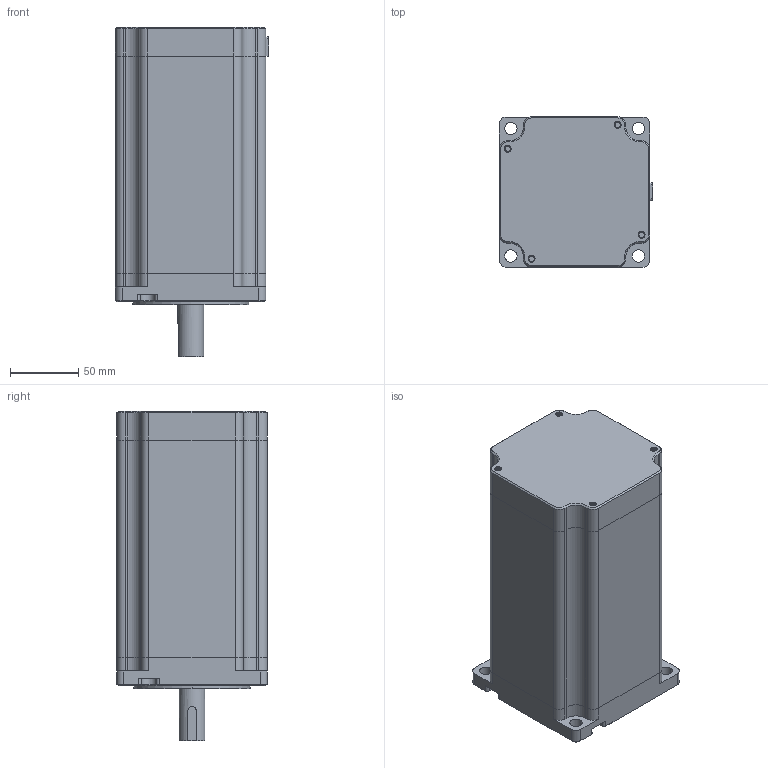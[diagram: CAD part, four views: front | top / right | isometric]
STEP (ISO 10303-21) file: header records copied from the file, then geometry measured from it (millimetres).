
FILE_DESCRIPTION((''),'2;1');
FILE_NAME('ABCD0E94C2B2YBOX_5','2021-11-18T14:08:06',('qingl'),(''),'CREO PARAMETRIC BY PTC INC, 2019224','CREO PARAMETRIC BY PTC INC, 2019224','');
FILE_SCHEMA(('CONFIG_CONTROL_DESIGN'));
Length unit declared in the file: millimetre
Products named in the file (1): ABCD0E94C2B2YBOX_5
Bounding box: 112 x 110 x 241 mm (x, y, z)
Volume: 2212992.1 mm3; surface area: 111086.5 mm2
Topology: 1 solids, 1 shells, 329 faces, 834 edges, 519 vertices
Faces by surface type: cylinder 187, plane 106, cone 28, bspline 8
Entity records: 13342 total; most frequent: CARTESIAN_POINT 5697, ORIENTED_EDGE 1668, DIRECTION 1448, EDGE_CURVE 834, VERTEX_POINT 519, AXIS2_PLACEMENT_3D 508, VECTOR 432, LINE 432
